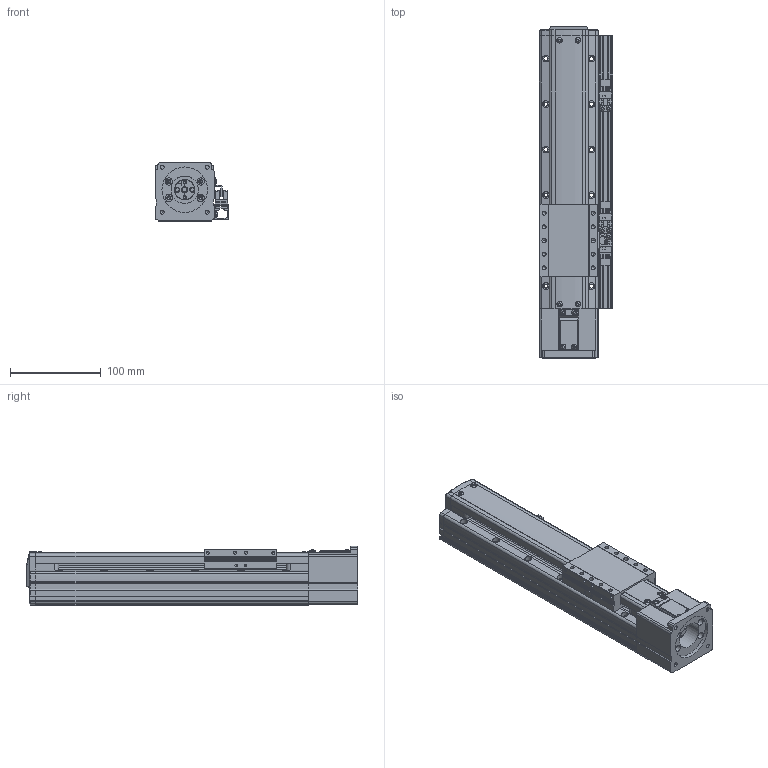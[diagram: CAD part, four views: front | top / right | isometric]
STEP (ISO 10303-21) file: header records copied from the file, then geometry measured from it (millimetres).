
FILE_DESCRIPTION(('STEP AP214'),'1');
FILE_NAME('Z:/Web/3D/PSA65/STP/PSA65-150 (3D)/PSA65ㅁㅁ-150S+3SR.stp','2014-06-25T03:10:24',(' '),(' '),'Spatial InterOp 3D',' ',' ');
FILE_SCHEMA(('automotive_design'));
Length unit declared in the file: millimetre
Products named in the file (98): SLIDE; RRCV-PA060; 1; 2; 3; 4; 5; 6; 7; 8; 9; 10; 11; 12; 13; 14; 15; 16; 17; 18; 19; 20; 21; 22; 23; 24; 25; 26; 27; 28; 29; 30; 31; 스크루 : Round - M3.0 x 8.0; RN8 x 0.75; SHAFT-SAN65; BASE; 스크루 : Round - M3.0 x 6.0; MTHZ - PSA65-60A; CPLCV-SAN45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
Bounding box: 81 x 364.8 x 65 mm (x, y, z)
Volume: 1174083 mm3; surface area: 232044.4 mm2
Topology: 98 solids, 98 shells, 2799 faces, 7373 edges, 4762 vertices
Faces by surface type: plane 1565, cylinder 818, cone 323, sphere 50, bspline 23, torus 20
Entity records: 112314 total; most frequent: CARTESIAN_POINT 17690, DIRECTION 15163, ORIENTED_EDGE 14538, EDGE_CURVE 7269, AXIS2_PLACEMENT_3D 5213, VERTEX_POINT 4762, LINE 4737, VECTOR 4737
